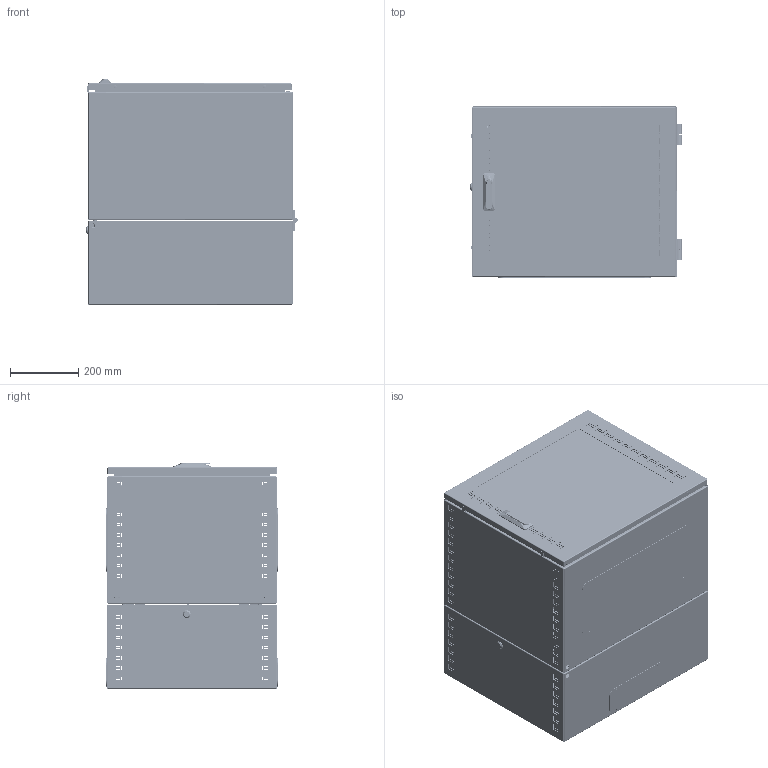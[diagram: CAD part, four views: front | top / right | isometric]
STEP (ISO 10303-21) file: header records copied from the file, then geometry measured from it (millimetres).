
FILE_DESCRIPTION (( 'STEP AP203' ), '1' );
FILE_NAME ('R5STI0965GS.STEP', '2019-07-16T12:23:15', ( '' ), ( '' ), 'SwSTEP 2.0', 'SolidWorks 2017', '' );
FILE_SCHEMA (( 'CONFIG_CONTROL_DESIGN' ));
Length unit declared in the file: millimetre
Products named in the file (51): RB.0692.03.00.0 CÁ_-00 (500å600); MirrorMirrorRB.0374.00.01.0_-00 (400)<As Machined><As Machined>; Catch Mesan; AC00C398; M4x8 GOST 17475-80 (DIN 965)_straight; RB.0692.01.01.0_-00 (500x600x400); AC00C061_AC00C061; RB.0374.00.02.0_-00 (9U); Handle Mesan (part 3); RB.0374.05.00.0 捘_-04 (500x600 glass); AC00C383; RB.0692.01.02.0_-00 (500x600); RB.0374.04.01.0; RB.0374.00.02.0 mirror_-04 (9U); 4.8x13 DIN 7981 (R5A07)_straight; AC00C112; M6 art.MGR-MKO-0625_2洵; Ì6õ20-A5100001_straight; RB.0374.04.00.0 CÁ; M6x12-DIN 6921_stright; M6x10-A1100004_straight; PF 7,5x15 door STI_0500x0600; RB.0692.02.01.0; RB.0692.01.00.0 C縫-00 (500x600x400); M6-DIN 6923 (CM100600)_straight; AC00C401_AC00C401; Handle 308 Mesan; Glass STI_0500x0600; RB.0692.02.00.0 C縫-00 (500x600x400); RB.0374.03.01.0; Lock 20x17,5x90 Ruslock; AC00C380; RB.0692.03.01.0_-00 (500x600); RB.0374.06.00.0 捘_-04 (500x600 glass); Glue STI_0500x0600; Hinge M8 60x60 Ruslock; RB.0374.03.00.0 CÁ; Nut 20x17,5x90 Ruslock; RB.0374.01.02.0_-00 (500x600); RB.0374.00.01.0_-00 (400)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
Assembly tree (156 placements, depth 4):
  R5STI0965GS
    RB.0692.04.00.0 捘_-00 (500x600)
      RB.0692.03.00.0 CÁ_-00 (500å600)
        RB.0692.03.01.0_-00 (500x600)
        RB.0374.01.02.0_-00 (500x600)
        Ì6õ12-A5100231_straight  x2
      AC00C061_AC00C061  x4
      RB.0374.04.00.0 CÁ  x2
        RB.0374.04.01.0
        Ì6õ12-A5100231_straight
      M6-DIN 6923 (CM100600)_straight  x8
      Lock 20x17,5x90 Ruslock
        Lock 20x17,5x90 Ruslock
        Nut 20x17,5x90 Ruslock
    RB.0692.02.00.0 C縫-00 (500x600x400)
      RB.0692.01.00.0 C縫-00 (500x600x400)
        RB.0692.01.01.0_-00 (500x600x400)
        RB.0692.01.02.0_-00 (500x600)
        Ì6õ20-A5100001_straight  x4
        Ì6õ12-A5100231_straight  x10
      RB.0374.03.00.0 CÁ  x2
        RB.0374.03.01.0
        Ì6õ12-A5100231_straight
      RB.0048.02.01.0  x2
      AC00C399  x2
      M4x8 GOST 17475-80 (DIN 965)_straight  x4
      AC00C383  x2
      AC00C061_AC00C061  x8
      M6-DIN 6923 (CM100600)_straight  x8
      M6 art.MGR-MKO-0625_2洵  x2
      RB.0692.02.01.0  x2
    Hinge M8 60x60 Ruslock  x4
    M8-DIN 6923 (CM100800)_stright  x8
    RB.0374.06.00.0 捘_-04 (500x600 glass)
      RB.0374.05.00.0 捘_-04 (500x600 glass)
        RB.0374.05.01.0_-04 (500x600 glass)
        AC00C398  x2
        Ì6õ12-A5100231_straight  x2
      AC00C112  x4
      AC00C061_AC00C061  x2
      PF 7,5x15 door STI_0500x0600
      Glass STI_0500x0600
      Glue STI_0500x0600
      Handle 308 Mesan
        Handle Mesan (part 1)
        Handle Mesan (part 2)
        Catch Mesan
        Handle Mesan (part 3)
        4.8x13 DIN 7981 (R5A07)_straight  x3
        M6x10-A1100004_straight
    RB.0374.00.01.0_-00 (400)
    MirrorRB.0374.00.01.0_-00 (400)<As Machined>  x2
    MirrorMirrorRB.0374.00.01.0_-00 (400)<As Machined><As Machined>
    RB.0374.00.02.0_-00 (9U)  x2
    RB.0374.00.02.0 mirror_-04 (9U)  x2
    M6-DIN 6923 (CM100600)_straight  x16
    M6x12-DIN 6921_stright  x8
    AC00C401_AC00C401  x2
    AC00C380  x2
Bounding box: 620 x 503 x 662.96 mm (x, y, z)
Volume: 4442922.2 mm3; surface area: 5394561.4 mm2
Topology: 217 solids, 217 shells, 7906 faces, 20003 edges, 12709 vertices
Faces by surface type: plane 4591, cylinder 1509, cone 782, bspline 770, torus 226, sphere 28
Entity records: 155735 total; most frequent: CARTESIAN_POINT 39848, ORIENTED_EDGE 22798, DIRECTION 20478, EDGE_CURVE 11399, VECTOR 8848, LINE 8848, VERTEX_POINT 7337, AXIS2_PLACEMENT_3D 5815
